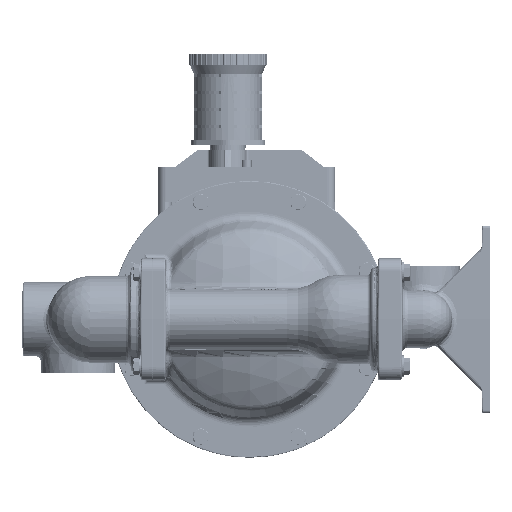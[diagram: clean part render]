
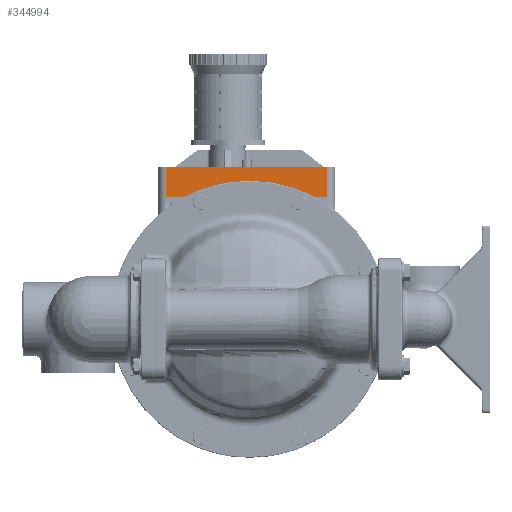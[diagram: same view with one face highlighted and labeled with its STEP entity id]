
A CAD part, left-side view. The second image highlights one B-rep face of the part: STEP entity #344994.
In plain terms, the highlighted planar face has unit normal (-1, 0, 0).
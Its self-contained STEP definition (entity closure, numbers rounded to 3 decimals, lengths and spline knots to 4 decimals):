
#1750 = VECTOR ( 'NONE', #230601, 39.3701 ) ;
#7060 = CARTESIAN_POINT ( 'NONE',  ( -1.236, 3.126, 4.585 ) ) ;
#97473 = ORIENTED_EDGE ( 'NONE', *, *, #420651, .F. ) ;
#129666 = DIRECTION ( 'NONE',  ( 0., 0., 1. ) ) ;
#131470 = AXIS2_PLACEMENT_3D ( 'NONE', #475654, #218150, #252636 ) ;
#135997 = ORIENTED_EDGE ( 'NONE', *, *, #229550, .F. ) ;
#148539 = VERTEX_POINT ( 'NONE', #7060 ) ;
#192089 = CARTESIAN_POINT ( 'NONE',  ( -1.236, -2.904, 5.71 ) ) ;
#212542 = PLANE ( 'NONE',  #131470 ) ;
#217830 = VERTEX_POINT ( 'NONE', #563336 ) ;
#218150 = DIRECTION ( 'NONE',  ( -1., 0., 0. ) ) ;
#226412 = CARTESIAN_POINT ( 'NONE',  ( -1.236, 3.126, 5.71 ) ) ;
#229550 = EDGE_CURVE ( 'NONE', #217830, #481669, #564169, .T. ) ;
#230601 = DIRECTION ( 'NONE',  ( 0., 1., 0. ) ) ;
#252636 = DIRECTION ( 'NONE',  ( 0., 0., 1. ) ) ;
#263892 = FACE_OUTER_BOUND ( 'NONE', #391216, .T. ) ;
#271526 = CARTESIAN_POINT ( 'NONE',  ( -1.236, 3.126, 4.585 ) ) ;
#306939 = LINE ( 'NONE', #392767, #490782 ) ;
#344994 = ADVANCED_FACE ( 'NONE', ( #263892 ), #212542, .T. ) ;
#349558 = DIRECTION ( 'NONE',  ( 0., -1., 0. ) ) ;
#350896 = CARTESIAN_POINT ( 'NONE',  ( -1.236, -2.904, 4.585 ) ) ;
#357336 = LINE ( 'NONE', #271526, #496593 ) ;
#391216 = EDGE_LOOP ( 'NONE', ( #97473, #470886, #135997, #494329 ) ) ;
#392767 = CARTESIAN_POINT ( 'NONE',  ( -1.236, -2.904, 4.585 ) ) ;
#398550 = EDGE_CURVE ( 'NONE', #439238, #481669, #306939, .T. ) ;
#420651 = EDGE_CURVE ( 'NONE', #439238, #148539, #445167, .T. ) ;
#439238 = VERTEX_POINT ( 'NONE', #455062 ) ;
#445167 = LINE ( 'NONE', #350896, #1750 ) ;
#455062 = CARTESIAN_POINT ( 'NONE',  ( -1.236, -2.904, 4.585 ) ) ;
#470886 = ORIENTED_EDGE ( 'NONE', *, *, #398550, .T. ) ;
#475654 = CARTESIAN_POINT ( 'NONE',  ( -1.236, -2.904, 5.585 ) ) ;
#481669 = VERTEX_POINT ( 'NONE', #192089 ) ;
#490782 = VECTOR ( 'NONE', #129666, 39.3701 ) ;
#494329 = ORIENTED_EDGE ( 'NONE', *, *, #539932, .F. ) ;
#496593 = VECTOR ( 'NONE', #531848, 39.3701 ) ;
#531848 = DIRECTION ( 'NONE',  ( 0., 0., 1. ) ) ;
#539932 = EDGE_CURVE ( 'NONE', #148539, #217830, #357336, .T. ) ;
#544811 = VECTOR ( 'NONE', #349558, 39.3701 ) ;
#563336 = CARTESIAN_POINT ( 'NONE',  ( -1.236, 3.126, 5.71 ) ) ;
#564169 = LINE ( 'NONE', #226412, #544811 ) ;
